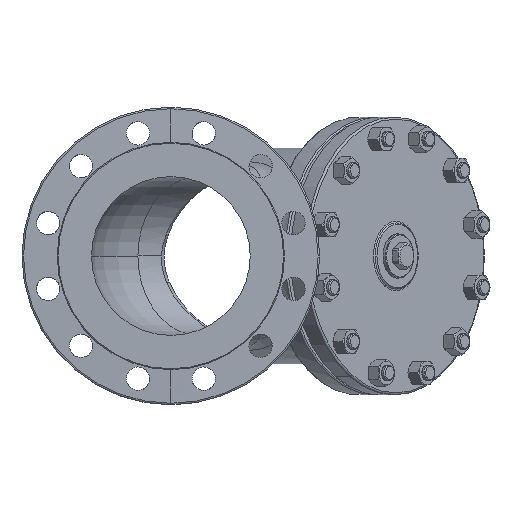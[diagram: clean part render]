
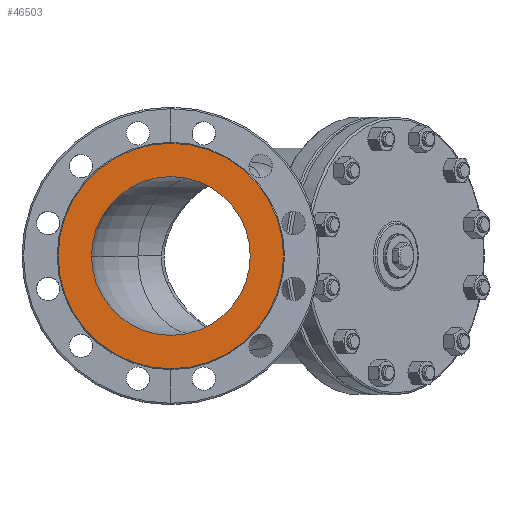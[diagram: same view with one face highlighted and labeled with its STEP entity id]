
A CAD part, left-side view. The second image highlights one B-rep face of the part: STEP entity #46503.
In plain terms, the highlighted planar face has unit normal (-1, 0, 0).
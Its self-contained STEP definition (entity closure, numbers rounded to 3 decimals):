
#1900 = CIRCLE ( 'NONE', #8817, 100. ) ;
#4078 = CARTESIAN_POINT ( 'NONE',  ( -600., 0., 0. ) ) ;
#4081 = DIRECTION ( 'NONE',  ( 1., 0., 0. ) ) ;
#4083 = DIRECTION ( 'NONE',  ( 0., 0., -1. ) ) ;
#5630 = CARTESIAN_POINT ( 'NONE',  ( -600., 0., 0. ) ) ;
#5633 = CARTESIAN_POINT ( 'NONE',  ( -600., 0., 0. ) ) ;
#5634 = DIRECTION ( 'NONE',  ( 1., 0., 0. ) ) ;
#5635 = DIRECTION ( 'NONE',  ( 0., 0., -1. ) ) ;
#5640 = DIRECTION ( 'NONE',  ( 1., 0., 0. ) ) ;
#5641 = DIRECTION ( 'NONE',  ( 0., 0., -1. ) ) ;
#6272 = EDGE_LOOP ( 'NONE', ( #32274, #32277 ) ) ;
#8817 = AXIS2_PLACEMENT_3D ( 'NONE', #43925, #43931, #43932 ) ;
#10866 = CIRCLE ( 'NONE', #33420, 142. ) ;
#10922 = CIRCLE ( 'NONE', #33445, 142. ) ;
#10924 = CIRCLE ( 'NONE', #33446, 100. ) ;
#19243 = CARTESIAN_POINT ( 'NONE',  ( -600., 0., 142. ) ) ;
#19279 = CARTESIAN_POINT ( 'NONE',  ( -600., 0., -142. ) ) ;
#24363 = CARTESIAN_POINT ( 'NONE',  ( -600., 0., 0. ) ) ;
#24364 = PLANE ( 'NONE',  #48438 ) ;
#24366 = DIRECTION ( 'NONE',  ( -1., 0., 0. ) ) ;
#24367 = DIRECTION ( 'NONE',  ( 0., 0., 1. ) ) ;
#32267 = ORIENTED_EDGE ( 'NONE', *, *, #33107, .F. ) ;
#32270 = ORIENTED_EDGE ( 'NONE', *, *, #33183, .F. ) ;
#32274 = ORIENTED_EDGE ( 'NONE', *, *, #50346, .T. ) ;
#32277 = ORIENTED_EDGE ( 'NONE', *, *, #33185, .T. ) ;
#33107 = EDGE_CURVE ( 'NONE', #51133, #51169, #10866, .T. ) ;
#33183 = EDGE_CURVE ( 'NONE', #51169, #51133, #10922, .T. ) ;
#33185 = EDGE_CURVE ( 'NONE', #50736, #50763, #10924, .T. ) ;
#33420 = AXIS2_PLACEMENT_3D ( 'NONE', #4078, #4081, #4083 ) ;
#33445 = AXIS2_PLACEMENT_3D ( 'NONE', #5630, #5634, #5635 ) ;
#33446 = AXIS2_PLACEMENT_3D ( 'NONE', #5633, #5640, #5641 ) ;
#34160 = EDGE_LOOP ( 'NONE', ( #32267, #32270 ) ) ;
#43925 = CARTESIAN_POINT ( 'NONE',  ( -600., 0., 0. ) ) ;
#43931 = DIRECTION ( 'NONE',  ( 1., 0., 0. ) ) ;
#43932 = DIRECTION ( 'NONE',  ( 0., 0., -1. ) ) ;
#44432 = CARTESIAN_POINT ( 'NONE',  ( -600., 100., 0. ) ) ;
#44459 = CARTESIAN_POINT ( 'NONE',  ( -600., -100., 0. ) ) ;
#46503 = ADVANCED_FACE ( 'NONE', ( #47372, #47389 ), #24364, .T. ) ;
#47372 = FACE_OUTER_BOUND ( 'NONE', #34160, .T. ) ;
#47389 = FACE_BOUND ( 'NONE', #6272, .T. ) ;
#48438 = AXIS2_PLACEMENT_3D ( 'NONE', #24363, #24366, #24367 ) ;
#50346 = EDGE_CURVE ( 'NONE', #50763, #50736, #1900, .T. ) ;
#50736 = VERTEX_POINT ( 'NONE', #44432 ) ;
#50763 = VERTEX_POINT ( 'NONE', #44459 ) ;
#51133 = VERTEX_POINT ( 'NONE', #19243 ) ;
#51169 = VERTEX_POINT ( 'NONE', #19279 ) ;
